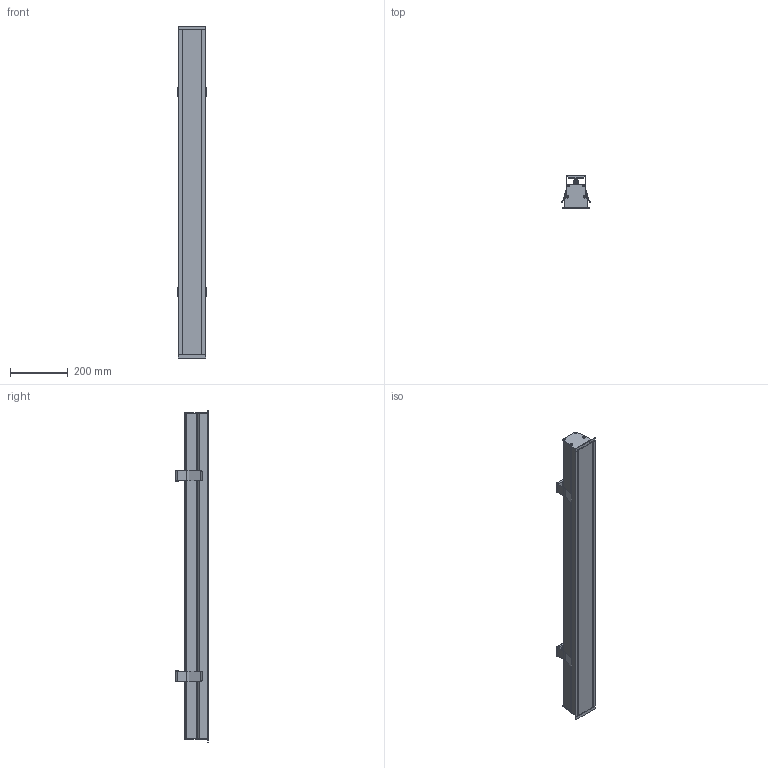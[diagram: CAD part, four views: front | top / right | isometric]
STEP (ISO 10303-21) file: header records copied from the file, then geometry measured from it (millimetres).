
FILE_DESCRIPTION (( 'STEP AP214' ), '1' );
FILE_NAME ('mLight_Recessed_Kleo X LED_1148mm_Direct.STEP', '2020-04-07T00:06:09', ( '' ), ( '' ), 'SwSTEP 2.0', 'SolidWorks 2017', '' );
FILE_SCHEMA (( 'AUTOMOTIVE_DESIGN' ));
Length unit declared in the file: millimetre
Products named in the file (6): RF0013 - Spring Conical2; Body; Body bracket; cross countersunk head screw_as_AS-NZS 1023 CC- M4 x 10-N; Rec Kleo X - End Cap STD; mLight_Recessed_Kleo X LED_1148mm_Direct
Assembly tree (15 placements, depth 2):
  mLight_Recessed_Kleo X LED_1148mm_Direct
    Body
    Rec Kleo X - End Cap STD  x2
    cross countersunk head screw_as_AS-NZS 1023 CC- M4 x 10-N  x8
    RF0013 - Spring Conical2  x2
    Body bracket  x2
Bounding box: 97.11 x 111.83 x 1148 mm (x, y, z)
Volume: 6366517.8 mm3; surface area: 505136.1 mm2
Topology: 15 solids, 15 shells, 634 faces, 1500 edges, 888 vertices
Faces by surface type: plane 343, cylinder 151, cone 120, torus 16, bspline 4
Entity records: 11208 total; most frequent: CARTESIAN_POINT 5392, DIRECTION 1233, ORIENTED_EDGE 1124, EDGE_CURVE 562, AXIS2_PLACEMENT_3D 443, VECTOR 347, LINE 347, VERTEX_POINT 346
